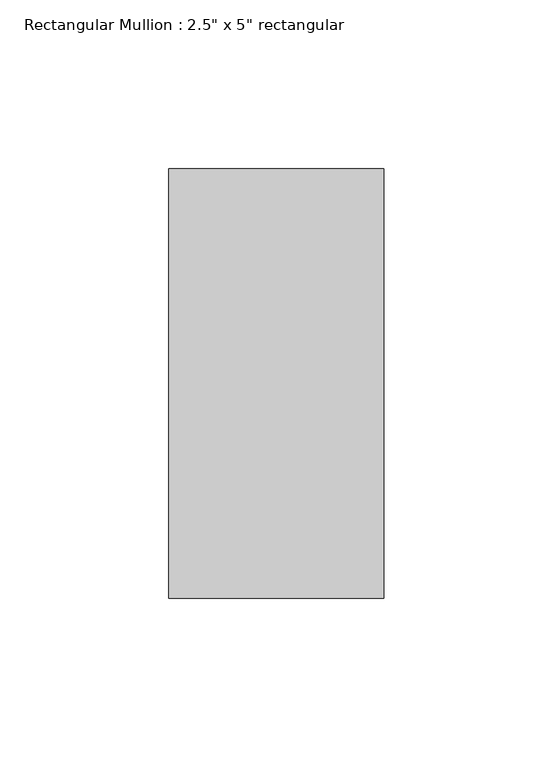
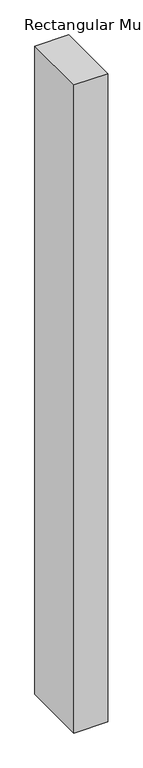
"""IFC4 building model written with IfcOpenShell, lengths in millimetres: member geometry."""

from ifc_helpers import new_model, si_unit, frame, origin, place, context, project, spatial, polyline, outline, extrude, source, transform, mapped, element, save


def member_95d83a1b(model_context):
    return source(origin(), model_context, "Body", "SweptSolid", [
        extrude(outline(polyline([(31.75, 63.5), (31.75, -63.5), (-31.75, -63.5), (-31.75, 63.5), (31.75, 63.5)])), frame((0.0, 0.0, -1289.84375), z_axis=(0.0, 0.0, 1.0), x_axis=(1.0, 0.0, 0.0)), (0.0, 0.0, 1.0), 1289.84375),
    ])


if __name__ == "__main__":
    model = new_model("IFC4")
    model_context = context("Model", 3, world=origin())
    ifc_project = project(units=[si_unit("LENGTHUNIT", "METRE", prefix="MILLI")], contexts=[model_context])
    site = spatial("IfcSite", under=ifc_project)
    building = spatial("IfcBuilding", under=site)
    placement = place(None, origin())
    member_shape = member_95d83a1b(model_context)
    element("IfcMember", 1, ObjectType="Rectangular Mullion : 2.5\" x 5\" rectangular", at=placement, inside=building, context=model_context, shape_type="MappedRepresentation", body=[
        mapped(member_shape, transform((0.0, 0.0, 0.0), x_axis=(1.0, 0.0, 0.0), y_axis=(0.0, 1.0, 0.0), z_axis=(0.0, 0.0, 1.0))),
    ])
    save(model, "model.ifc")
